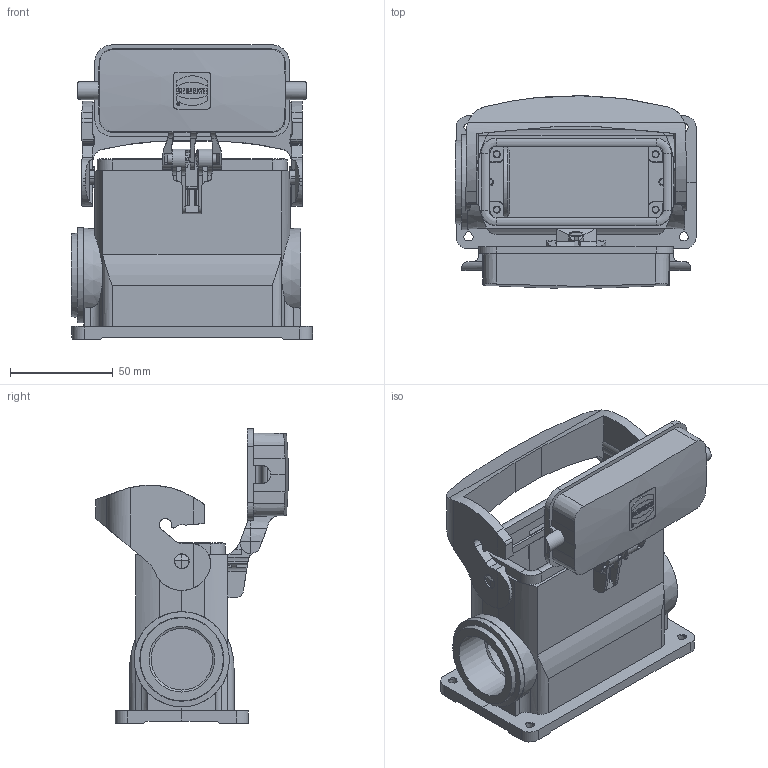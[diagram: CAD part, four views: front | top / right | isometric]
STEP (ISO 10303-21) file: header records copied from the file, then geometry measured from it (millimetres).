
FILE_DESCRIPTION(/* description */ (''),/* implementation_level */ '2;1');
FILE_NAME(/* name */ '100749531ugm000_c.stp',/* time_stamp */ '2022-03-12T05:53:08+01:00',/* author */ (''),/* organization */ (''),/* preprocessor_version */ 'ST-DEVELOPER v16.7',/* originating_system */ 'SIEMENS PLM Software NX 1911',/* authorisation */ '');
FILE_SCHEMA (('AUTOMOTIVE_DESIGN { 1 0 10303 214 3 1 1 1 }'));
Length unit declared in the file: millimetre
Products named in the file (1): 100749531ugm000_c
Bounding box: 117.65 x 93.91 x 143.5 mm (x, y, z)
Volume: 55675.1 mm3; surface area: 99541.3 mm2
Topology: 2 solids, 536 shells, 879 faces, 3844 edges, 3480 vertices
Faces by surface type: plane 550, cylinder 224, cone 60, bspline 16, torus 12, sphere 10, extrusion 7
Full cylindrical faces by diameter (mm): 1.006 x1, 1.477 x1, 3 x4, 3.5 x4, 4.8 x2, 7.2 x2, 30 x1, 32 x1, 46.4 x1
Entity records: 52725 total; most frequent: CARTESIAN_POINT 11713, DIRECTION 6241, ORIENTED_EDGE 4750, EDGE_CURVE 3789, VERTEX_POINT 3464, VECTOR 2393, LINE 2386, AXIS2_PLACEMENT_3D 1924
